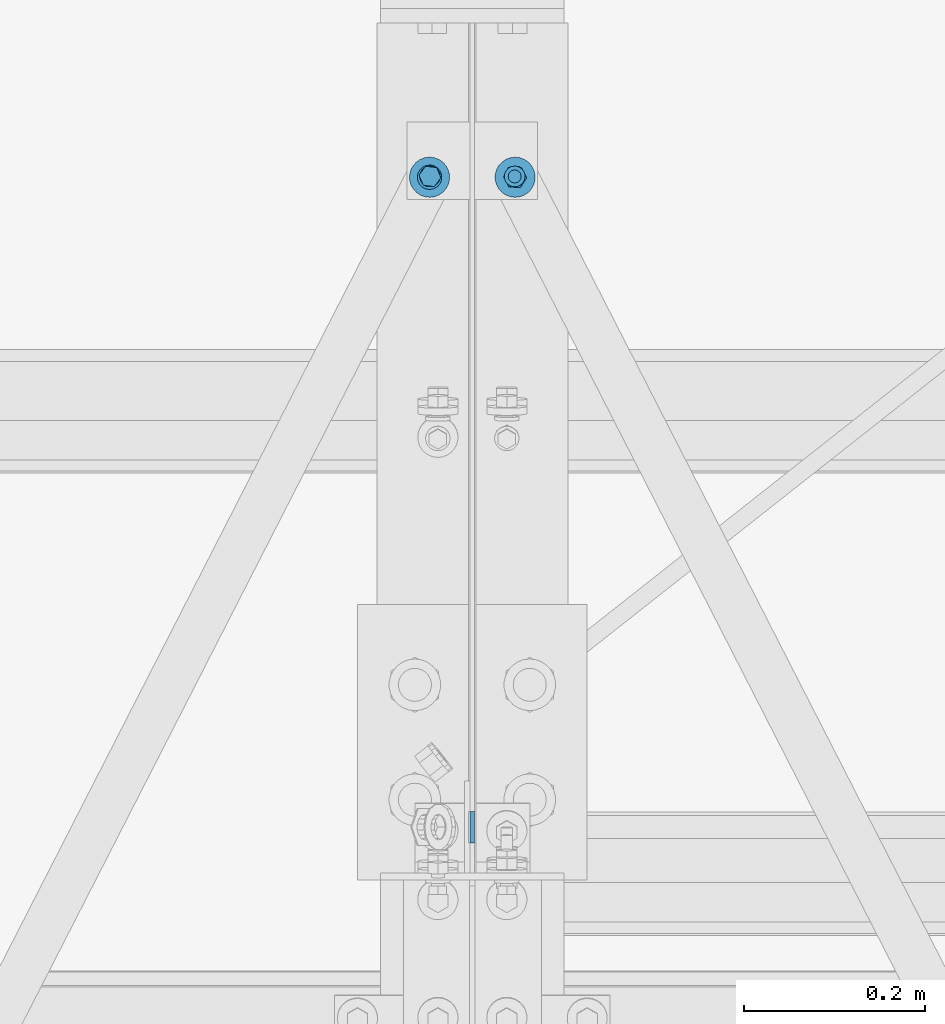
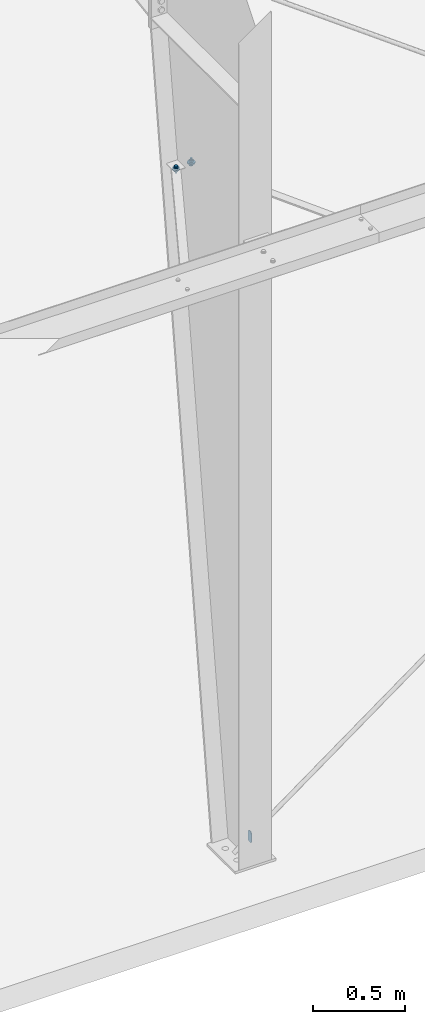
# One storey, part 136 of 185: 5 mechanical fasteners, 3 elements without a shape of their own.
"""IFC2X3 building model written with IfcOpenShell, lengths in millimetres."""

import ifcopenshell
import ifcopenshell.guid

model = None  # the IFC model being written
_history = None  # IfcOwnerHistory: only IFC2X3 demands one
_inside = {}  # id of a spatial element -> (the spatial element, [elements in it])
_under = {}  # id of a project, library or spatial element -> (it, [spatial elements below it])
_declared = {}  # id of a project -> (the project, [libraries it declares])
_typed = {}  # id of a type object -> (the type object, [elements of that type])
_made_of = {}  # id of a material, layer set ... -> (it, [elements and type objects made of it])


def new_model(schema):
    """Start an empty IFC model of exactly this schema.

    Asked for "IFC4X3", IfcOpenShell would pick the latest addendum, in which some entities
    have other attributes; the version numbers below select the first issue.
    IFC2X3 requires an IfcOwnerHistory on every rooted entity: one is made here for all.
    """
    global model, _history
    if schema == "IFC4X3":
        model = ifcopenshell.file(schema_version=(4, 3, 0, 0))
    else:
        model = ifcopenshell.file(schema=schema)
    _inside.clear()
    _under.clear()
    _declared.clear()
    _typed.clear()
    _made_of.clear()
    _history = None
    if model.schema == "IFC2X3":
        org = make("IfcOrganization", Name="unknown")
        user = make(
            "IfcPersonAndOrganization",
            ThePerson=make("IfcPerson", FamilyName="unknown"),
            TheOrganization=org,
        )
        app = make(
            "IfcApplication",
            ApplicationDeveloper=org,
            Version="unknown",
            ApplicationFullName="unknown",
            ApplicationIdentifier="unknown",
        )
        _history = make(
            "IfcOwnerHistory",
            OwningUser=user,
            OwningApplication=app,
            ChangeAction="ADDED",
            CreationDate=0,
        )
    return model


def make(cls, **values):
    """One entity of the class cls with the attributes given. An attribute that is None is left unset."""
    return model.create_entity(
        cls, **{name: value for name, value in values.items() if value is not None}
    )


def rooted(cls, **values):
    """An entity with a GlobalId (a new one), such as an element, a storey or a relation."""
    return make(cls, GlobalId=ifcopenshell.guid.new(), OwnerHistory=_history, **values)


def si_unit(unit_type, name, prefix=None):
    """IfcSIUnit, for example si_unit("LENGTHUNIT", "METRE", prefix="MILLI")."""
    return make("IfcSIUnit", UnitType=unit_type, Prefix=prefix, Name=name)


def assignment(units):
    """IfcUnitAssignment: the units of a project."""
    return None if units is None else make("IfcUnitAssignment", Units=units)


def point(xyz):
    """IfcCartesianPoint."""
    return None if xyz is None else make("IfcCartesianPoint", Coordinates=xyz)


def direction(xyz):
    """IfcDirection."""
    return None if xyz is None else make("IfcDirection", DirectionRatios=xyz)


def frame(location, z_axis=None, x_axis=None):
    """IfcAxis2Placement3D, a coordinate frame: its origin and axes. An axis left out is left unset."""
    return make(
        "IfcAxis2Placement3D",
        Location=point(location),
        Axis=direction(z_axis),
        RefDirection=direction(x_axis),
    )


def frame_2d(location, x_axis=None):
    """IfcAxis2Placement2D, a coordinate frame in the plane: its origin and x axis."""
    return make(
        "IfcAxis2Placement2D", Location=point(location), RefDirection=direction(x_axis)
    )


def origin_with_axes():
    """The frame at (0, 0, 0) with the z axis (0, 0, 1) and the x axis (1, 0, 0) written out."""
    return frame((0.0, 0.0, 0.0), z_axis=(0.0, 0.0, 1.0), x_axis=(1.0, 0.0, 0.0))


def origin_2d_with_axis():
    """The frame at (0, 0) in the plane with the x axis (1, 0) written out."""
    return frame_2d((0.0, 0.0), x_axis=(1.0, 0.0))


def place(relative_to, where):
    """IfcLocalPlacement: puts the frame where relative to a parent placement (None: the world)."""
    return make(
        "IfcLocalPlacement", PlacementRelTo=relative_to, RelativePlacement=where
    )


def context(
    kind, dimensions, precision=None, world=None, true_north=None, identifier=None
):
    """IfcGeometricRepresentationContext, for example the 3D "Model" context."""
    return make(
        "IfcGeometricRepresentationContext",
        ContextIdentifier=identifier,
        ContextType=kind,
        CoordinateSpaceDimension=dimensions,
        Precision=precision,
        WorldCoordinateSystem=world,
        TrueNorth=true_north,
    )


def subcontext(parent, identifier, kind, view, scale=None):
    """IfcGeometricRepresentationSubContext, for example "Body" below "Model"."""
    return make(
        "IfcGeometricRepresentationSubContext",
        ContextIdentifier=identifier,
        ContextType=kind,
        ParentContext=parent,
        TargetScale=scale,
        TargetView=view,
    )


def project(units=None, contexts=None):
    """IfcProject with its units and contexts."""
    return rooted(
        "IfcProject",
        Name="project",
        RepresentationContexts=contexts,
        UnitsInContext=assignment(units),
    )


def spatial(cls, under=None, at=None, **own):
    """A site, building, storey or space (cls), placed at a placement, below another one or the project."""
    s = rooted(cls, ObjectPlacement=at, **own)
    if under is not None:
        _under.setdefault(under.id(), (under, []))[1].append(s)
    return s


def polyline(points):
    """IfcPolyline through the points."""
    return make("IfcPolyline", Points=[point(p) for p in points])


def circle_curve(where, radius):
    """IfcCircle in the frame where."""
    return make("IfcCircle", Position=where, Radius=radius)


def parameter(value):
    """IfcParameterValue: where a trimmed curve begins or ends, as a parameter of its basis curve."""
    return model.create_entity("IfcParameterValue", value)


def trimmed(basis, trim1, trim2, sense, master):
    """IfcTrimmedCurve: the piece of a basis curve between two trims."""
    return make(
        "IfcTrimmedCurve",
        BasisCurve=basis,
        Trim1=trim1,
        Trim2=trim2,
        SenseAgreement=sense,
        MasterRepresentation=master,
    )


def segment(curve, same_sense, transition):
    """IfcCompositeCurveSegment."""
    return make(
        "IfcCompositeCurveSegment",
        Transition=transition,
        SameSense=same_sense,
        ParentCurve=curve,
    )


def composite_curve(segments, self_intersect=None):
    """IfcCompositeCurve: segments joined end to end."""
    return make("IfcCompositeCurve", Segments=segments, SelfIntersect=self_intersect)


def profile(cls, at=None, kind="AREA", **sizes):
    """A parametric profile (cls). Its sizes go by their IFC names, for example OverallWidth=200.0."""
    return make(cls, ProfileType=kind, Position=at, **sizes)


def circle(**sizes):
    """IfcCircleProfileDef."""
    return profile("IfcCircleProfileDef", **sizes)


def outline(outer, holes=None, kind="AREA"):
    """IfcArbitraryClosedProfileDef: a profile drawn as a closed curve; with holes, ...WithVoids."""
    if holes is None:
        return make("IfcArbitraryClosedProfileDef", ProfileType=kind, OuterCurve=outer)
    return make(
        "IfcArbitraryProfileDefWithVoids",
        ProfileType=kind,
        OuterCurve=outer,
        InnerCurves=holes,
    )


def extrude(swept, where, along, depth):
    """IfcExtrudedAreaSolid: the profile swept, set in the frame where, extruded along a direction by depth."""
    return make(
        "IfcExtrudedAreaSolid",
        SweptArea=swept,
        Position=where,
        ExtrudedDirection=direction(along),
        Depth=depth,
    )


def shape(context_of_items, identifier, shape_type, items):
    """IfcShapeRepresentation: the items that make up one representation, for example the "Body"."""
    return make(
        "IfcShapeRepresentation",
        ContextOfItems=context_of_items,
        RepresentationIdentifier=identifier,
        RepresentationType=shape_type,
        Items=items,
    )


def source(mapping_origin, context_of_items, identifier, shape_type, items):
    """IfcRepresentationMap: a shape defined once, which mapped items show again and again."""
    return make(
        "IfcRepresentationMap",
        MappingOrigin=mapping_origin,
        MappedRepresentation=shape(context_of_items, identifier, shape_type, items),
    )


def transform(
    local_origin,
    x_axis=None,
    y_axis=None,
    z_axis=None,
    scale=None,
    scale2=None,
    scale3=None,
    uniform=True,
):
    """IfcCartesianTransformationOperator3D, or its non-uniform kind. x_axis, y_axis, z_axis: its Axis1, 2, 3."""
    if uniform:
        return make(
            "IfcCartesianTransformationOperator3D",
            Axis1=direction(x_axis),
            Axis2=direction(y_axis),
            LocalOrigin=point(local_origin),
            Scale=scale,
            Axis3=direction(z_axis),
        )
    return make(
        "IfcCartesianTransformationOperator3DnonUniform",
        Axis1=direction(x_axis),
        Axis2=direction(y_axis),
        LocalOrigin=point(local_origin),
        Scale=scale,
        Axis3=direction(z_axis),
        Scale2=scale2,
        Scale3=scale3,
    )


def mapped(mapping_source, mapping_target):
    """IfcMappedItem: shows the shape of a source again, moved by a transform."""
    return make(
        "IfcMappedItem", MappingSource=mapping_source, MappingTarget=mapping_target
    )


def material(Name=None, Category=None):
    """IfcMaterial."""
    return make("IfcMaterial", Name=Name, Category=Category)


def made_of(thing, what):
    """Note that an element or type object is made of a material, layer set ...; save() writes the relation."""
    if what is not None:
        _made_of.setdefault(what.id(), (what, []))[1].append(thing)
    return thing


def type_object(cls, material=None, **own):
    """A type object (cls), such as IfcWallType, which elements share."""
    return made_of(rooted(cls, **own), material)


def element(
    cls,
    number,
    at=None,
    inside=None,
    cuts=None,
    type_object=None,
    material=None,
    context=None,
    identifier="Body",
    shape_type=None,
    held_by="IfcProductDefinitionShape",
    body=None,
    shapes=None,
    **own,
):
    """One element of the class cls, such as IfcWall. Its Tag is "e" and its number.

    at: its placement. inside: the storey or other place that contains it. cuts: it is an
    opening in that element (IfcRelVoidsElement). A single representation is given by context,
    identifier, shape_type and body (its items); several are given by shapes. held_by: the class
    of the entity that holds the representations. save() writes the other relations.
    """
    e = rooted(cls, Tag="e%d" % number, ObjectPlacement=at, **own)
    if body is not None:
        shapes = [shape(context, identifier, shape_type, body)]
    if shapes is not None:
        e.Representation = make(held_by, Representations=shapes)
    if inside is not None:
        _inside.setdefault(inside.id(), (inside, []))[1].append(e)
    if cuts is not None:
        rooted(
            "IfcRelVoidsElement", RelatingBuildingElement=cuts, RelatedOpeningElement=e
        )
    if type_object is not None:
        _typed.setdefault(type_object.id(), (type_object, []))[1].append(e)
    return made_of(e, material)


def aggregate(whole, parts):
    """IfcRelAggregates: a whole, such as a stair, and the parts it consists of."""
    return rooted("IfcRelAggregates", RelatingObject=whole, RelatedObjects=parts)


def save(model, path):
    """Write the relations noted so far, then the file.

    IfcRelAggregates (storeys below a building ...), IfcRelContainedInSpatialStructure (elements
    in a storey), IfcRelDefinesByType, IfcRelAssociatesMaterial and IfcRelDeclares: one each for
    every whole, place, type object, material and project.
    """
    for whole, parts in _under.values():
        aggregate(whole, parts)
    for where, things in _inside.values():
        rooted(
            "IfcRelContainedInSpatialStructure",
            RelatedElements=things,
            RelatingStructure=where,
        )
    for kind, things in _typed.values():
        rooted("IfcRelDefinesByType", RelatedObjects=things, RelatingType=kind)
    for what, things in _made_of.values():
        rooted("IfcRelAssociatesMaterial", RelatedObjects=things, RelatingMaterial=what)
    for by, libraries in _declared.values():
        rooted("IfcRelDeclares", RelatingContext=by, RelatedDefinitions=libraries)
    model.write(path)


model = new_model("IFC2X3")

# Units and contexts
model_context = context("Model", 3, precision=1e-05, world=origin_with_axes())
body_context = subcontext(model_context, "Body", "Model", "MODEL_VIEW")
ifc_project = project(units=[si_unit("LENGTHUNIT", "METRE", prefix="MILLI"), si_unit("AREAUNIT", "SQUARE_METRE"), si_unit("VOLUMEUNIT", "CUBIC_METRE"), si_unit("MASSUNIT", "GRAM", prefix="KILO"), si_unit("TIMEUNIT", "SECOND"), si_unit("PLANEANGLEUNIT", "RADIAN"), si_unit("SOLIDANGLEUNIT", "STERADIAN"), si_unit("THERMODYNAMICTEMPERATUREUNIT", "DEGREE_CELSIUS"), si_unit("LUMINOUSINTENSITYUNIT", "LUMEN")], contexts=[model_context])

# Site, building, storey
site_placement = place(None, origin_with_axes())
site = spatial("IfcSite", under=ifc_project, at=site_placement, Name="Undefined", CompositionType="ELEMENT")
building_placement = place(site_placement, origin_with_axes())
building = spatial("IfcBuilding", under=site, at=building_placement, Name="Undefined", CompositionType="ELEMENT")
storey_placement = place(building_placement, origin_with_axes())
storey = spatial("IfcBuildingStorey", under=building, at=storey_placement, Name="Undefined", CompositionType="ELEMENT", Elevation=0.0)

# Assembly, mechanical fastener
assembly_1_placement = place(storey_placement, origin_with_axes())
assembly_1 = element("IfcElementAssembly", 1, at=assembly_1_placement, inside=storey, Name="Steel Assembly", AssemblyPlace="NOTDEFINED", PredefinedType="RIGID_FRAME")
ifc_material_1 = material(Name="Undefined")
discrete_accessory_type = type_object("IfcDiscreteAccessoryType", Name="Bolt assembly")
shared_shape_1 = source(origin_with_axes(), body_context, "Body", "SweptSolid", [
    extrude(circle(Radius=7.14374971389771, at=origin_2d_with_axis()), frame((0.0, -1.59000001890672, 0.0), z_axis=(0.0, 1.0, 0.0), x_axis=(1.0, 0.0, 0.0)), (0.0, 0.0, 1.0), 1.7),
    extrude(outline(polyline([(10.9985221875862, 0.0), (5.4992610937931, 9.52499961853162), (-5.4992610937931, 9.52499961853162), (-10.9985221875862, 0.0), (-5.4992610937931, -9.52499961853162), (5.4992610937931, -9.52499961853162), (10.9985221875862, 0.0)])), frame((0.0, -15.0837496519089, 0.0), z_axis=(0.0, 1.0, 0.0), x_axis=(1.0, 0.0, 0.0)), (0.0, 0.0, 1.0), 9.5),
    extrude(circle(Radius=6.34999990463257, at=origin_2d_with_axis()), frame((0.0, -5.5587500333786, 0.0), z_axis=(0.0, 1.0, 0.0), x_axis=(1.0, 0.0, 0.0)), (0.0, 0.0, 1.0), 38.1),
    extrude(circle(Radius=13.4937496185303, at=origin_2d_with_axis()), frame((0.0, -5.5587500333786, 0.0), z_axis=(0.0, 1.0, 0.0), x_axis=(1.0, 0.0, 0.0)), (0.0, 0.0, 1.0), 4.0),
    extrude(circle(Radius=22.2250003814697, at=origin_2d_with_axis()), frame((0.0, 0.0, 0.0), z_axis=(0.0, 1.0, 0.0), x_axis=(1.0, 0.0, 0.0)), (0.0, 0.0, 1.0), 7.9),
    extrude(outline(polyline([(12.8316099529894, 0.0), (6.4158049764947, 11.1125001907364), (-6.4158049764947, 11.1125001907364), (-12.8316099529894, 0.0), (-6.4158049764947, -11.1125001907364), (6.4158049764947, -11.1125001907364), (12.8316099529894, 0.0)])), frame((0.0, 7.93750000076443, 0.0), z_axis=(0.0, 1.0, 0.0), x_axis=(1.0, 0.0, 0.0)), (0.0, 0.0, 1.0), 12.3),
])
mechanical_fastener_1_placement = place(assembly_1_placement, frame((30146.2866216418, 1081.76889073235, 4165.1649751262), z_axis=(-0.890301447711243, -0.455371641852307, 0.0), x_axis=(0.455371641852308, -0.890301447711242, 0.0)))
mechanical_fastener_1 = element("IfcMechanicalFastener", 2, at=mechanical_fastener_1_placement, type_object=discrete_accessory_type, material=ifc_material_1, Name="Bolt assembly", NominalDiameter=12.6999998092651, NominalLength=38.0999984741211, context=body_context, shape_type="MappedRepresentation", body=[
    mapped(shared_shape_1, transform((0.0, 0.0, 0.0))),
])
aggregate(assembly_1, [mechanical_fastener_1])

assembly_2_placement = place(storey_placement, origin_with_axes())
assembly_2 = element("IfcElementAssembly", 3, at=assembly_2_placement, inside=storey, Name="Steel Assembly", AssemblyPlace="NOTDEFINED", PredefinedType="RIGID_FRAME")
shared_shape_2 = source(origin_with_axes(), body_context, "Body", "SweptSolid", [
    extrude(circle(Radius=7.14374971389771, at=origin_2d_with_axis()), frame((0.0, 0.0, 0.0), z_axis=(0.0, 1.0, 0.0), x_axis=(1.0, 0.0, 0.0)), (0.0, 0.0, 1.0), 1.7),
    extrude(outline(polyline([(10.9985221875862, 0.0), (5.4992610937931, 9.52499961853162), (-5.4992610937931, 9.52499961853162), (-10.9985221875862, 0.0), (-5.4992610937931, -9.52499961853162), (5.4992610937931, -9.52499961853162), (10.9985221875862, 0.0)])), frame((0.0, -13.4937496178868, 0.0), z_axis=(0.0, 1.0, 0.0), x_axis=(1.0, 0.0, 0.0)), (0.0, 0.0, 1.0), 9.5),
    extrude(circle(Radius=6.34999990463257, at=origin_2d_with_axis()), frame((0.0, -3.96874999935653, 0.0), z_axis=(0.0, 1.0, 0.0), x_axis=(1.0, 0.0, 0.0)), (0.0, 0.0, 1.0), 38.1),
    extrude(circle(Radius=13.4937496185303, at=origin_2d_with_axis()), frame((0.0, -3.96874999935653, 0.0), z_axis=(0.0, 1.0, 0.0), x_axis=(1.0, 0.0, 0.0)), (0.0, 0.0, 1.0), 4.0),
    extrude(circle(Radius=22.2250003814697, at=origin_2d_with_axis()), frame((0.0, 1.5900000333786, 0.0), z_axis=(0.0, 1.0, 0.0), x_axis=(1.0, 0.0, 0.0)), (0.0, 0.0, 1.0), 7.9),
    extrude(outline(polyline([(12.8316099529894, 0.0), (6.4158049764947, 11.1125001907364), (-6.4158049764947, 11.1125001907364), (-12.8316099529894, 0.0), (-6.4158049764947, -11.1125001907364), (6.4158049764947, -11.1125001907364), (12.8316099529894, 0.0)])), frame((0.0, 9.5275000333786, 0.0), z_axis=(0.0, 1.0, 0.0), x_axis=(1.0, 0.0, 0.0)), (0.0, 0.0, 1.0), 12.3),
])
mechanical_fastener_2_placement = place(assembly_2_placement, frame((30051.7133783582, 1081.76889073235, 4165.1649751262), z_axis=(0.890301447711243, -0.455371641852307, 0.0), x_axis=(-0.455371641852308, -0.890301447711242, 0.0)))
mechanical_fastener_2 = element("IfcMechanicalFastener", 4, at=mechanical_fastener_2_placement, type_object=discrete_accessory_type, material=ifc_material_1, Name="Bolt assembly", NominalDiameter=12.6999998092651, NominalLength=38.0999984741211, context=body_context, shape_type="MappedRepresentation", body=[
    mapped(shared_shape_2, transform((0.0, 0.0, 0.0))),
])
aggregate(assembly_2, [mechanical_fastener_2])

# Assembly, mechanical fasteners
assembly_3_placement = place(storey_placement, origin_with_axes())
assembly_3 = element("IfcElementAssembly", 5, at=assembly_3_placement, inside=storey, Name="Steel Assembly", AssemblyPlace="NOTDEFINED", PredefinedType="RIGID_FRAME")
ifc_material_2 = material(Name="7990")
shared_shape_3 = source(origin_with_axes(), body_context, "Body", "SweptSolid", [
    extrude(circle(Radius=7.14374971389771, at=origin_2d_with_axis()), frame((0.0, -3.41600000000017, 0.0), z_axis=(0.0, 1.0, 0.0), x_axis=(1.0, 0.0, 0.0)), (0.0, 0.0, 1.0), 3.5),
    extrude(circle(Radius=11.4299998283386, at=origin_2d_with_axis()), frame((0.0, 0.0, 0.0), z_axis=(0.0, 1.0, 0.0), x_axis=(1.0, 0.0, 0.0)), (0.0, 0.0, 1.0), 4.2),
    extrude(outline(polyline([(12.171698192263, 0.0), (6.08584909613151, 10.5409998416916), (-6.08584909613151, 10.5409998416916), (-12.171698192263, 0.0), (-6.08584909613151, -10.5409998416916), (6.08584909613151, -10.5409998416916), (12.171698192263, 0.0)])), frame((0.0, 4.1909999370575, 0.0), z_axis=(0.0, 1.0, 0.0), x_axis=(1.0, 0.0, 0.0)), (0.0, 0.0, 1.0), 8.4),
])
mechanical_fastener_3_placement = place(assembly_3_placement, frame((30052.16875, 1082.6591921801, 4165.1649751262), z_axis=(0.921635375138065, 0.388057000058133, 0.0), x_axis=(-0.388057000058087, 0.921635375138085, 0.0)))
mechanical_fastener_3 = element("IfcMechanicalFastener", 6, at=mechanical_fastener_3_placement, type_object=discrete_accessory_type, material=ifc_material_2, Name="Bolt assembly", NominalDiameter=12.6999998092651, NominalLength=38.0999984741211, context=body_context, shape_type="MappedRepresentation", body=[
    mapped(shared_shape_3, transform((0.0, 0.0, 0.0))),
])
shared_shape_4 = source(origin_with_axes(), body_context, "Body", "SweptSolid", [
    extrude(circle(Radius=7.14374971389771, at=origin_2d_with_axis()), frame((0.0, 0.0, 0.0), z_axis=(0.0, 1.0, 0.0), x_axis=(1.0, 0.0, 0.0)), (0.0, 0.0, 1.0), 3.5),
    extrude(circle(Radius=11.4299998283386, at=origin_2d_with_axis()), frame((0.0, 3.41600000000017, 0.0), z_axis=(0.0, 1.0, 0.0), x_axis=(1.0, 0.0, 0.0)), (0.0, 0.0, 1.0), 4.2),
    extrude(outline(polyline([(12.171698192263, 0.0), (6.08584909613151, 10.5409998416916), (-6.08584909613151, 10.5409998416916), (-12.171698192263, 0.0), (-6.08584909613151, -10.5409998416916), (6.08584909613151, -10.5409998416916), (12.171698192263, 0.0)])), frame((0.0, 7.60699993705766, 0.0), z_axis=(0.0, 1.0, 0.0), x_axis=(1.0, 0.0, 0.0)), (0.0, 0.0, 1.0), 8.4),
])
mechanical_fastener_4_placement = place(assembly_3_placement, frame((30145.83125, 1082.6591921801, 4165.1649751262), z_axis=(-0.921635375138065, 0.388057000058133, 0.0), x_axis=(0.388057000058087, 0.921635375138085, 0.0)))
mechanical_fastener_4 = element("IfcMechanicalFastener", 7, at=mechanical_fastener_4_placement, type_object=discrete_accessory_type, material=ifc_material_2, Name="Bolt assembly", NominalDiameter=12.6999998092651, NominalLength=38.0999984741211, context=body_context, shape_type="MappedRepresentation", body=[
    mapped(shared_shape_4, transform((0.0, 0.0, 0.0))),
])
shared_shape_5 = source(origin_with_axes(), body_context, "Body", "SweptSolid", [
    extrude(outline(composite_curve([segment(polyline([(-23.8125, 17.4624996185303), (23.8125, 17.4624996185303)]), True, "CONTINUOUS"), segment(trimmed(circle_curve(frame_2d((23.8125, 4.76249980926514), x_axis=(0.0, 1.0)), 12.7), [parameter(0.0)], [parameter(4.71238898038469)], False, "PARAMETER"), True, "CONTINUOUS"), segment(polyline([(36.5124998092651, 4.76249980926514), (36.5124998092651, -4.76249980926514)]), True, "CONTINUOUS"), segment(trimmed(circle_curve(frame_2d((23.8125, -4.76249980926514), x_axis=(1.0, 0.0)), 12.7), [parameter(0.0)], [parameter(4.71238898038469)], False, "PARAMETER"), True, "CONTINUOUS"), segment(polyline([(23.8125, -17.4624996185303), (-23.8125, -17.4624996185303)]), True, "CONTINUOUS"), segment(trimmed(circle_curve(frame_2d((-23.8125, -4.76249980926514), x_axis=(0.0, -1.0)), 12.7), [parameter(0.0)], [parameter(4.71238898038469)], False, "PARAMETER"), True, "CONTINUOUS"), segment(polyline([(-36.5124998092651, -4.76249980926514), (-36.5124998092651, 4.76249980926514)]), True, "CONTINUOUS"), segment(trimmed(circle_curve(frame_2d((-23.8125, 4.76249980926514), x_axis=(-1.0, 0.0)), 12.7), [parameter(0.0)], [parameter(4.71238898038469)], False, "PARAMETER"), True, "DISCONTINUOUS")], self_intersect=False)), frame((0.0, -2.38125000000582, 0.0), z_axis=(0.0, 1.0, 0.0), x_axis=(1.0, 0.0, 0.0)), (0.0, 0.0, 1.0), 4.9),
])
mechanical_fastener_5_placement = place(assembly_3_placement, frame((30099.0, 363.473999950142, 168.275057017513), z_axis=(0.0, 1.0, 0.0), x_axis=(0.0, 0.0, 1.0)))
mechanical_fastener_5 = element("IfcMechanicalFastener", 8, at=mechanical_fastener_5_placement, type_object=discrete_accessory_type, material=ifc_material_1, Name="Bolt assembly", NominalDiameter=25.3999996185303, NominalLength=31.75, context=body_context, shape_type="MappedRepresentation", body=[
    mapped(shared_shape_5, transform((0.0, 0.0, 0.0))),
])
aggregate(assembly_3, [mechanical_fastener_5, mechanical_fastener_3, mechanical_fastener_4])

save(model, "model.ifc")
